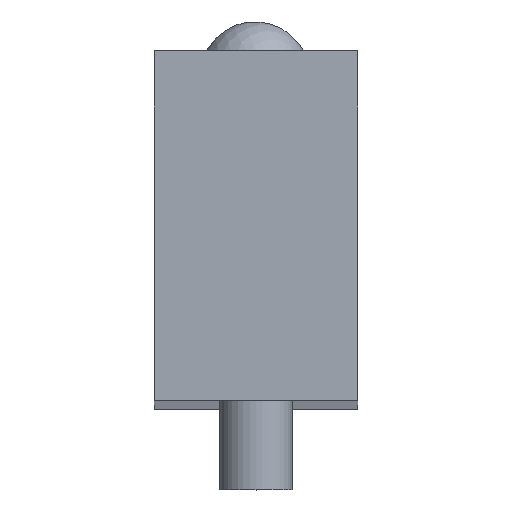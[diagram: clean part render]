
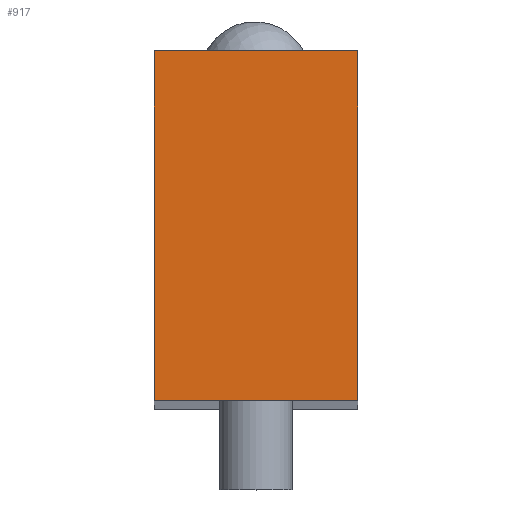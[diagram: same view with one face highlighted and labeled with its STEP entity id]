
A CAD part, top view. The second image highlights one B-rep face of the part: STEP entity #917.
In plain terms, the highlighted planar face has unit normal (0, 0, 1).
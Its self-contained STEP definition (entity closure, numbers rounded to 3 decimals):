
#52=LINE('',#1579,#83);
#56=LINE('',#1592,#87);
#63=LINE('',#1613,#94);
#64=LINE('',#1615,#95);
#83=VECTOR('',#1329,10.);
#87=VECTOR('',#1339,10.);
#94=VECTOR('',#1364,10.);
#95=VECTOR('',#1367,10.);
#207=FACE_OUTER_BOUND('',#300,.T.);
#300=EDGE_LOOP('',(#768,#769,#770,#771));
#444=VERTEX_POINT('',#1576);
#445=VERTEX_POINT('',#1578);
#450=VERTEX_POINT('',#1589);
#451=VERTEX_POINT('',#1591);
#543=EDGE_CURVE('',#445,#444,#52,.T.);
#549=EDGE_CURVE('',#451,#450,#56,.T.);
#560=EDGE_CURVE('',#444,#451,#63,.T.);
#561=EDGE_CURVE('',#450,#445,#64,.T.);
#768=ORIENTED_EDGE('',*,*,#549,.T.);
#769=ORIENTED_EDGE('',*,*,#561,.T.);
#770=ORIENTED_EDGE('',*,*,#543,.T.);
#771=ORIENTED_EDGE('',*,*,#560,.T.);
#796=PLANE('',#1070);
#917=ADVANCED_FACE('',(#207),#796,.T.);
#1070=AXIS2_PLACEMENT_3D('',#1616,#1368,#1369);
#1329=DIRECTION('',(-1.,0.,0.));
#1339=DIRECTION('',(1.,0.,0.));
#1364=DIRECTION('',(0.,-1.,0.));
#1367=DIRECTION('',(0.,1.,0.));
#1368=DIRECTION('center_axis',(0.,0.,1.));
#1369=DIRECTION('ref_axis',(1.,0.,0.));
#1576=CARTESIAN_POINT('',(-13.9,47.8,55.));
#1578=CARTESIAN_POINT('',(13.9,47.8,55.));
#1579=CARTESIAN_POINT('',(13.9,47.8,55.));
#1589=CARTESIAN_POINT('',(13.9,0.,55.));
#1591=CARTESIAN_POINT('',(-13.9,0.,55.));
#1592=CARTESIAN_POINT('',(-13.9,0.,55.));
#1613=CARTESIAN_POINT('',(-13.9,47.8,55.));
#1615=CARTESIAN_POINT('',(13.9,0.,55.));
#1616=CARTESIAN_POINT('Origin',(0.,23.9,55.));
